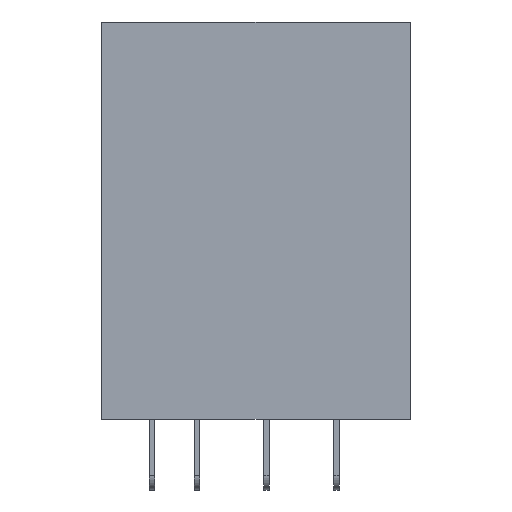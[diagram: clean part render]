
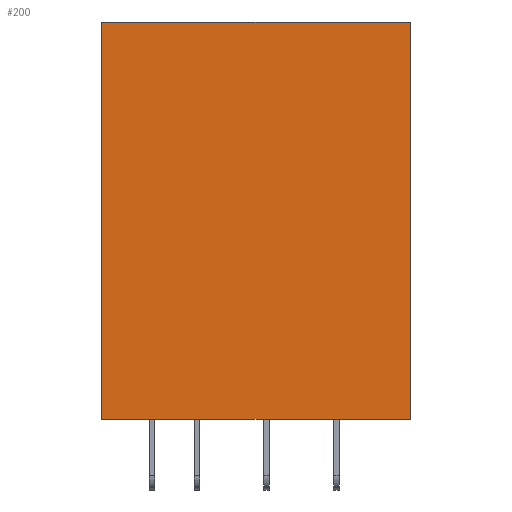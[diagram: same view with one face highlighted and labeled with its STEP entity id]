
A CAD part, top view. The second image highlights one B-rep face of the part: STEP entity #200.
In plain terms, the highlighted planar face has unit normal (0, 0, 1).
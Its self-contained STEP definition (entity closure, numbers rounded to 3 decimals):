
#200=ADVANCED_FACE('',(#543),#544,.T.);
#543=FACE_OUTER_BOUND('',#905,.T.);
#544=PLANE('',#906);
#905=EDGE_LOOP('',(#2177,#2178,#2179,#2180));
#906=AXIS2_PLACEMENT_3D('',#2181,#2182,#2183);
#2177=ORIENTED_EDGE('',*,*,#2695,.T.);
#2178=ORIENTED_EDGE('',*,*,#2696,.T.);
#2179=ORIENTED_EDGE('',*,*,#2697,.T.);
#2180=ORIENTED_EDGE('',*,*,#2698,.T.);
#2181=CARTESIAN_POINT('',(0.0,18.0,10.75));
#2182=DIRECTION('',(0.0,0.0,1.0));
#2183=DIRECTION('',(1.0,0.0,0.0));
#2695=EDGE_CURVE('',#3407,#3408,#3409,.T.);
#2696=EDGE_CURVE('',#3408,#3410,#3411,.T.);
#2697=EDGE_CURVE('',#3410,#3412,#3413,.T.);
#2698=EDGE_CURVE('',#3412,#3407,#3414,.T.);
#3407=VERTEX_POINT('',#4407);
#3408=VERTEX_POINT('',#4408);
#3409=LINE('',#4409,#4410);
#3410=VERTEX_POINT('',#4411);
#3411=LINE('',#4412,#4413);
#3412=VERTEX_POINT('',#4414);
#3413=LINE('',#4415,#4416);
#3414=LINE('',#4417,#4418);
#4407=CARTESIAN_POINT('',(14.0,0.0,10.75));
#4408=CARTESIAN_POINT('',(14.0,36.0,10.75));
#4409=CARTESIAN_POINT('',(14.0,18.0,10.75));
#4410=VECTOR('',#5139,1.0);
#4411=CARTESIAN_POINT('',(-14.0,36.0,10.75));
#4412=CARTESIAN_POINT('',(0.0,36.0,10.75));
#4413=VECTOR('',#5140,1.0);
#4414=CARTESIAN_POINT('',(-14.0,0.0,10.75));
#4415=CARTESIAN_POINT('',(-14.0,18.0,10.75));
#4416=VECTOR('',#5141,1.0);
#4417=CARTESIAN_POINT('',(0.0,0.0,10.75));
#4418=VECTOR('',#5142,1.0);
#5139=DIRECTION('',(0.0,1.0,0.0));
#5140=DIRECTION('',(-1.0,0.0,0.0));
#5141=DIRECTION('',(0.0,-1.0,0.0));
#5142=DIRECTION('',(1.0,0.0,0.0));
